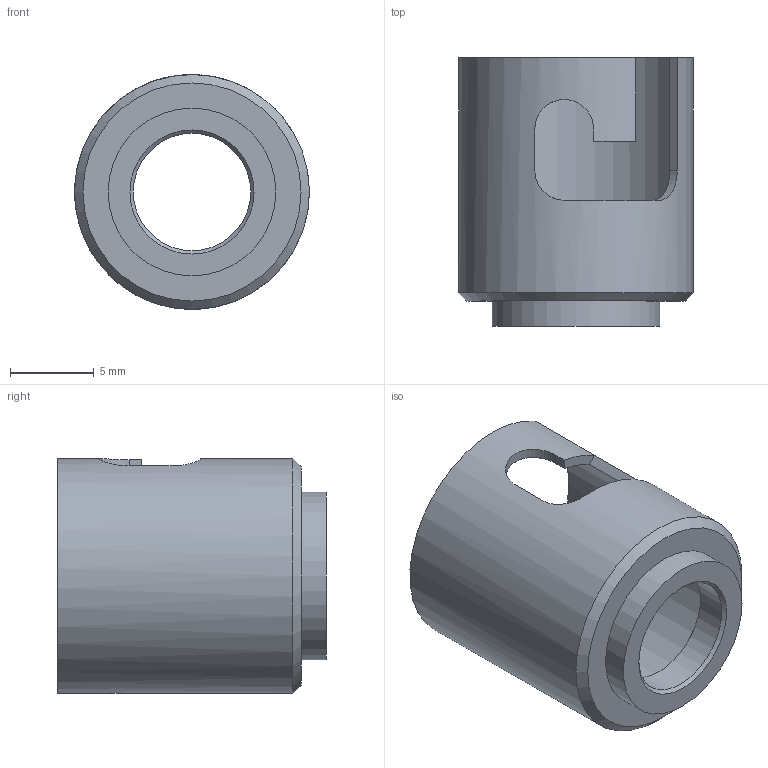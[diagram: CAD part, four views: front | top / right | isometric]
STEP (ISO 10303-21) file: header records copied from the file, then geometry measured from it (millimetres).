
FILE_DESCRIPTION (( 'STEP AP203' ), '1' );
FILE_NAME ('YIT220-3(0).STEP', '2023-10-31T07:15:16', ( '' ), ( '' ), 'SwSTEP 2.0', 'SolidWorks 2021', '' );
FILE_SCHEMA (( 'CONFIG_CONTROL_DESIGN' ));
Length unit declared in the file: millimetre
Products named in the file (1): YIT220-3(0)
Bounding box: 14 x 16 x 14 mm (x, y, z)
Volume: 530.2 mm3; surface area: 1350.4 mm2
Topology: 1 solids, 1 shells, 19 faces, 48 edges, 31 vertices
Faces by surface type: plane 9, cylinder 7, cone 3
Full cylindrical faces by diameter (mm): 7 x1, 10 x1, 12.8 x1, 14 x1
Entity records: 689 total; most frequent: CARTESIAN_POINT 196, DIRECTION 86, ORIENTED_EDGE 76, EDGE_CURVE 38, AXIS2_PLACEMENT_3D 34, VERTEX_POINT 28, EDGE_LOOP 28, FACE_OUTER_BOUND 23
